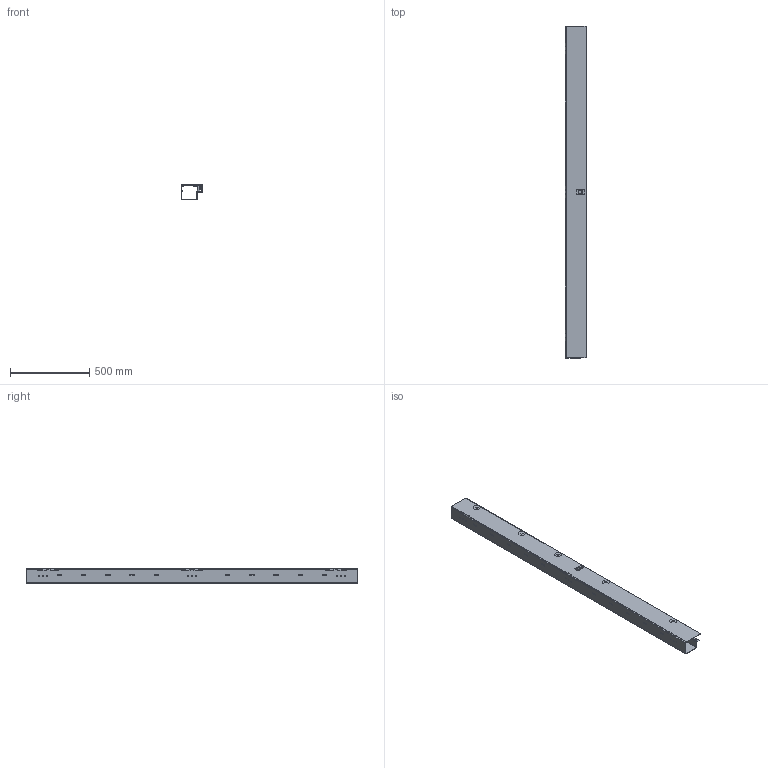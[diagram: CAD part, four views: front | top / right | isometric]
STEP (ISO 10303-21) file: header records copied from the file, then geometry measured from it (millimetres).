
FILE_DESCRIPTION(( 'STEP AP203 file generated by I-DEAS Master Series'),'2;1');
FILE_NAME('D:\a00506\P-VCM228.stp','2001-10-16T11:05:38',('A00506'),( 'unspecified'),'I-DEAS Master Series 7m2 : Design', 'I-DEAS Master Series 7m2 : Design','unspecified');
FILE_SCHEMA(('CONFIG_CONTROL_DESIGN'));
Length unit declared in the file: inch
Assembly tree (12 placements, depth 0):
Bounding box: 135.56 x 2089.66 x 93.44 mm (x, y, z)
Volume: 1337112.4 mm3; surface area: 1598511.3 mm2
Topology: 12 solids, 12 shells, 765 faces, 1825 edges, 1076 vertices
Faces by surface type: bspline 765
Entity records: 22706 total; most frequent: CARTESIAN_POINT 10865, ORIENTED_EDGE 3526, EDGE_CURVE 1763, VERTEX_POINT 1036, EDGE_LOOP 991, QUASI_UNIFORM_CURVE 806, FACE_OUTER_BOUND 723, ADVANCED_FACE 723
